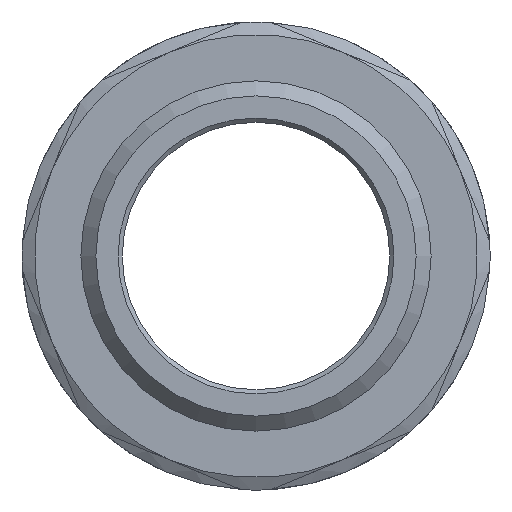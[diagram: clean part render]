
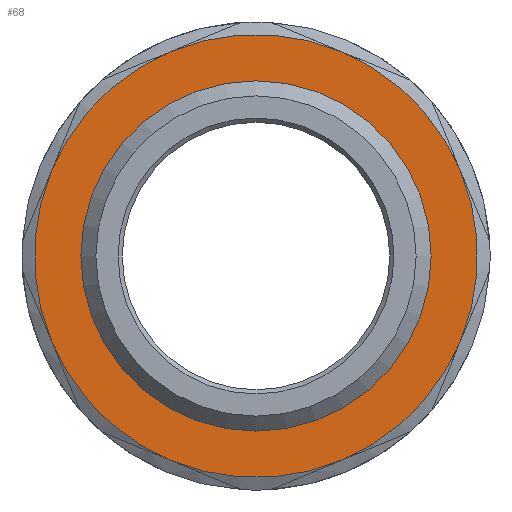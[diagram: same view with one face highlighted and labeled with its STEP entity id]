
A CAD part, front view. The second image highlights one B-rep face of the part: STEP entity #68.
In plain terms, the highlighted planar face has unit normal (0, -1, 0).
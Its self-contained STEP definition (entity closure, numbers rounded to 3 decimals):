
#68=ADVANCED_FACE('',(#256,#258),#260,.F.);
#256=FACE_BOUND('',#257,.T.);
#257=EDGE_LOOP('',(#422));
#258=FACE_BOUND('',#259,.T.);
#259=EDGE_LOOP('',(#423));
#260=PLANE('',#261);
#261=AXIS2_PLACEMENT_3D('',#262,#263,#264);
#262=CARTESIAN_POINT('',(0.,-23.5,0.));
#263=DIRECTION('',(0.,1.,0.));
#264=DIRECTION('',(-1.,0.,0.));
#422=ORIENTED_EDGE('',*,*,#486,.T.);
#423=ORIENTED_EDGE('',*,*,#476,.F.);
#476=EDGE_CURVE('',#580,#580,#581,.T.);
#486=EDGE_CURVE('',#591,#591,#593,.F.);
#580=VERTEX_POINT('',#797);
#581=CIRCLE('',#798,20.955);
#591=VERTEX_POINT('',#1017);
#593=CIRCLE('',#1035,26.5);
#797=CARTESIAN_POINT('',(20.955,-23.5,0.));
#798=AXIS2_PLACEMENT_3D('',#799,#800,#801);
#799=CARTESIAN_POINT('',(0.,-23.5,0.));
#800=DIRECTION('',(0.,-1.,0.));
#801=DIRECTION('',(1.,0.,0.));
#1017=CARTESIAN_POINT('',(-24.483,-23.5,-10.141));
#1035=AXIS2_PLACEMENT_3D('',#1036,#1037,#1038);
#1036=CARTESIAN_POINT('',(0.,-23.5,0.));
#1037=DIRECTION('',(0.,1.,0.));
#1038=DIRECTION('',(1.,0.,0.));
